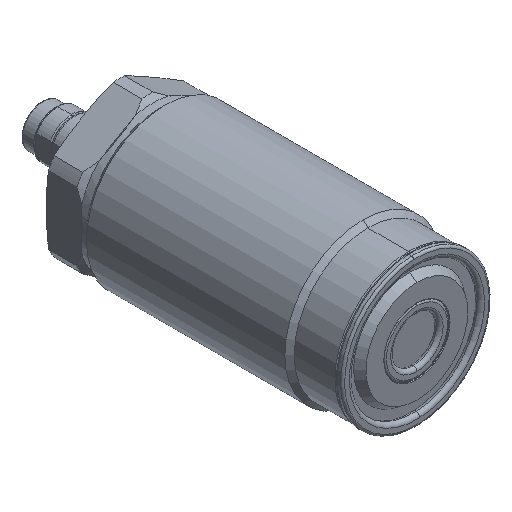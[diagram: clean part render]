
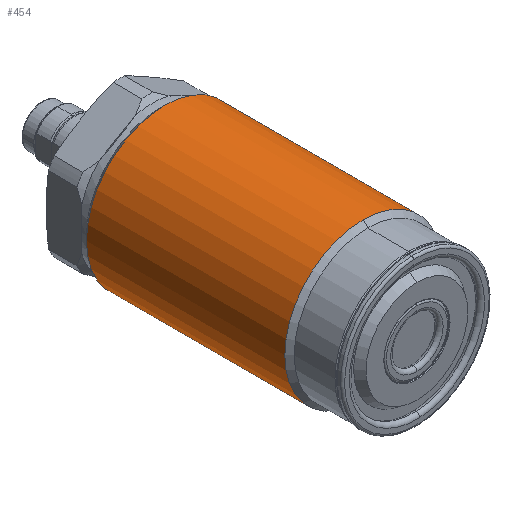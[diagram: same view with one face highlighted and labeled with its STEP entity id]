
A CAD part, isometric view. The second image highlights one B-rep face of the part: STEP entity #454.
In plain terms, the highlighted cylindrical face has radius 15 mm (diameter 30 mm), a full revolution.
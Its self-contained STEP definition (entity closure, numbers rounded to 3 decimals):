
#313=FACE_BOUND('',#847,.T.);
#314=FACE_BOUND('',#848,.T.);
#454=ADVANCED_FACE('',(#313,#314),#630,.T.);
#630=CYLINDRICAL_SURFACE('',#2967,15.);
#847=EDGE_LOOP('',(#1305));
#848=EDGE_LOOP('',(#1306,#1307,#1308,#1309,#1310,#1311));
#1055=CIRCLE('',#2964,15.);
#1056=CIRCLE('',#2965,15.);
#1057=CIRCLE('',#2966,15.);
#1305=ORIENTED_EDGE('',*,*,#2343,.T.);
#1306=ORIENTED_EDGE('',*,*,#2344,.T.);
#1307=ORIENTED_EDGE('',*,*,#2344,.F.);
#1308=ORIENTED_EDGE('',*,*,#2345,.T.);
#1309=ORIENTED_EDGE('',*,*,#2346,.T.);
#1310=ORIENTED_EDGE('',*,*,#2346,.F.);
#1311=ORIENTED_EDGE('',*,*,#2347,.T.);
#2095=VERTEX_POINT('',#4423);
#2096=VERTEX_POINT('',#4425);
#2097=VERTEX_POINT('',#4426);
#2098=VERTEX_POINT('',#4428);
#2099=VERTEX_POINT('',#4430);
#2343=EDGE_CURVE('',#2095,#2095,#1055,.T.);
#2344=EDGE_CURVE('',#2096,#2097,#2718,.T.);
#2345=EDGE_CURVE('',#2096,#2098,#1056,.T.);
#2346=EDGE_CURVE('',#2098,#2099,#2719,.T.);
#2347=EDGE_CURVE('',#2098,#2096,#1057,.T.);
#2718=LINE('',#4424,#2833);
#2719=LINE('',#4429,#2834);
#2833=VECTOR('',#3423,1.);
#2834=VECTOR('',#3426,1.);
#2964=AXIS2_PLACEMENT_3D('',#4422,#3421,#3422);
#2965=AXIS2_PLACEMENT_3D('',#4427,#3424,#3425);
#2966=AXIS2_PLACEMENT_3D('',#4431,#3427,#3428);
#2967=AXIS2_PLACEMENT_3D('',#4432,#3429,#3430);
#3421=DIRECTION('',(0.,-1.,0.));
#3422=DIRECTION('',(0.,0.,1.));
#3423=DIRECTION('',(0.,1.,0.));
#3424=DIRECTION('',(0.,1.,0.));
#3425=DIRECTION('',(0.,0.,1.));
#3426=DIRECTION('',(0.,1.,0.));
#3427=DIRECTION('',(0.,1.,0.));
#3428=DIRECTION('',(0.,0.,1.));
#3429=DIRECTION('',(0.,1.,0.));
#3430=DIRECTION('',(0.,0.,-1.));
#4422=CARTESIAN_POINT('',(0.,48.3,0.));
#4423=CARTESIAN_POINT('',(0.,48.3,15.));
#4424=CARTESIAN_POINT('',(0.,59.7,15.));
#4425=CARTESIAN_POINT('',(0.,10.3,15.));
#4426=CARTESIAN_POINT('',(0.,46.292,15.));
#4427=CARTESIAN_POINT('',(0.,10.3,0.));
#4428=CARTESIAN_POINT('',(0.,10.3,-15.));
#4429=CARTESIAN_POINT('',(0.,59.7,-15.));
#4430=CARTESIAN_POINT('',(0.,46.292,-15.));
#4431=CARTESIAN_POINT('',(0.,10.3,0.));
#4432=CARTESIAN_POINT('',(0.,59.7,0.));
